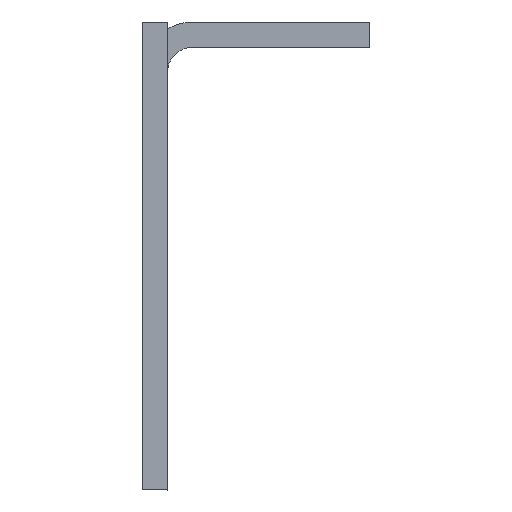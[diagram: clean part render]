
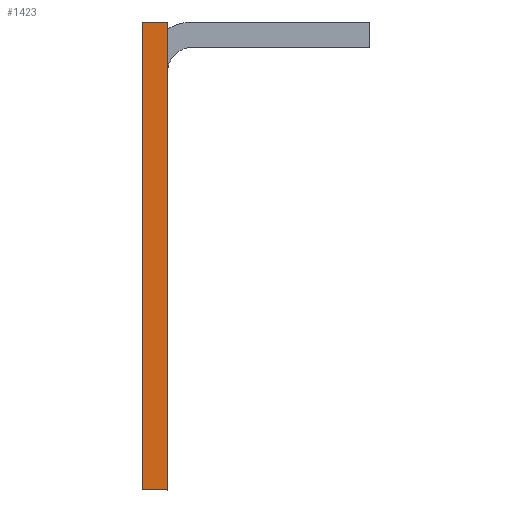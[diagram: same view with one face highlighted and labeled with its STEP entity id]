
A CAD part, left-side view. The second image highlights one B-rep face of the part: STEP entity #1423.
In plain terms, the highlighted planar face has unit normal (-1, 0, 0).
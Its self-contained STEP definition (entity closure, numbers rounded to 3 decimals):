
#82 = LINE ( 'NONE', #393, #575 ) ;
#109 = DIRECTION ( 'NONE',  ( 0., 1., 0. ) ) ;
#159 = EDGE_CURVE ( 'NONE', #241, #1351, #434, .T. ) ;
#171 = CARTESIAN_POINT ( 'NONE',  ( -263.5, 16., -37. ) ) ;
#199 = FACE_OUTER_BOUND ( 'NONE', #505, .T. ) ;
#241 = VERTEX_POINT ( 'NONE', #1383 ) ;
#283 = CARTESIAN_POINT ( 'NONE',  ( -263.5, 16., 0. ) ) ;
#366 = EDGE_CURVE ( 'NONE', #241, #1511, #82, .T. ) ;
#376 = EDGE_CURVE ( 'NONE', #960, #1351, #1285, .T. ) ;
#380 = ORIENTED_EDGE ( 'NONE', *, *, #625, .T. ) ;
#393 = CARTESIAN_POINT ( 'NONE',  ( -263.5, 16., 0. ) ) ;
#434 = LINE ( 'NONE', #283, #788 ) ;
#505 = EDGE_LOOP ( 'NONE', ( #598, #652, #380, #622 ) ) ;
#575 = VECTOR ( 'NONE', #109, 1000. ) ;
#598 = ORIENTED_EDGE ( 'NONE', *, *, #159, .F. ) ;
#622 = ORIENTED_EDGE ( 'NONE', *, *, #376, .T. ) ;
#625 = EDGE_CURVE ( 'NONE', #1511, #960, #636, .T. ) ;
#636 = LINE ( 'NONE', #1076, #1611 ) ;
#645 = DIRECTION ( 'NONE',  ( 0., 0., -1. ) ) ;
#649 = DIRECTION ( 'NONE',  ( 0., 0., -1. ) ) ;
#652 = ORIENTED_EDGE ( 'NONE', *, *, #366, .T. ) ;
#657 = DIRECTION ( 'NONE',  ( 0., -1., 0. ) ) ;
#788 = VECTOR ( 'NONE', #1728, 1000. ) ;
#887 = CARTESIAN_POINT ( 'NONE',  ( -263.5, 18., -37. ) ) ;
#958 = CARTESIAN_POINT ( 'NONE',  ( -263.5, 14., -4. ) ) ;
#960 = VERTEX_POINT ( 'NONE', #887 ) ;
#1068 = VECTOR ( 'NONE', #657, 1000. ) ;
#1076 = CARTESIAN_POINT ( 'NONE',  ( -263.5, 18., 0. ) ) ;
#1210 = CARTESIAN_POINT ( 'NONE',  ( -263.5, 18., 0. ) ) ;
#1283 = AXIS2_PLACEMENT_3D ( 'NONE', #958, #1650, #649 ) ;
#1285 = LINE ( 'NONE', #1428, #1068 ) ;
#1351 = VERTEX_POINT ( 'NONE', #171 ) ;
#1368 = PLANE ( 'NONE',  #1283 ) ;
#1383 = CARTESIAN_POINT ( 'NONE',  ( -263.5, 16., 0. ) ) ;
#1423 = ADVANCED_FACE ( 'NONE', ( #199 ), #1368, .F. ) ;
#1428 = CARTESIAN_POINT ( 'NONE',  ( -263.5, 18., -37. ) ) ;
#1511 = VERTEX_POINT ( 'NONE', #1210 ) ;
#1611 = VECTOR ( 'NONE', #645, 1000. ) ;
#1650 = DIRECTION ( 'NONE',  ( 1., 0., 0. ) ) ;
#1728 = DIRECTION ( 'NONE',  ( 0., 0., -1. ) ) ;
